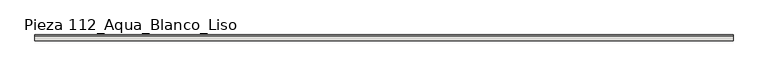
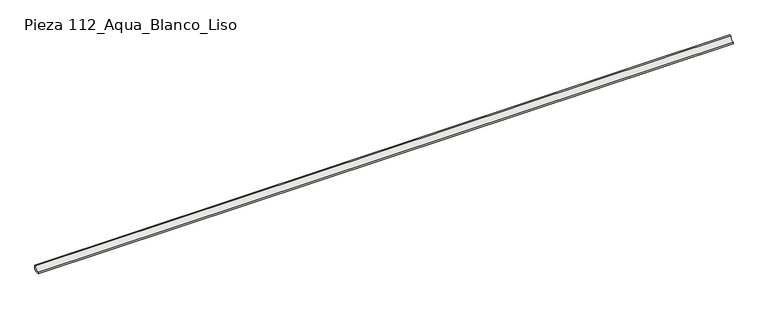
"""IFC4 building model written with IfcOpenShell, lengths in millimetres: slab geometry, ROSA GRES_112 : Pieza 112_Aqua_Blanco_Liso."""

from ifc_helpers import new_model, si_unit, point, frame, frame_2d, origin, place, context, project, spatial, polyline, circle_curve, trimmed, segment, composite_curve, outline, extrude, source, transform, mapped, element, save


def pieza_112_aqua_blanco_liso_6f53a8a9(model_context):
    return source(origin(), model_context, "Body", "SweptSolid", [
        extrude(outline(composite_curve([segment(polyline([(0.0, 8.7114978), (-8.7114978, 0.0), (-40.0, 0.0), (-40.0, 9.9734114)]), True, "CONTINUOUS"), segment(trimmed(circle_curve(frame_2d((-39.9955547, 39.9955547)), 30.0221435), [point((-40.0, 9.9734114))], [point((-9.9734114, 40.0))], True, "CARTESIAN"), True, "CONTINUOUS"), segment(polyline([(-9.9734114, 40.0), (0.0, 40.0), (0.0, 8.7114978)]), True, "CONTINUOUS")], self_intersect=False)), frame((0.0, 0.0, 0.0), z_axis=(1.0, 0.0, 0.0), x_axis=(0.0, 1.0, 0.0)), (0.0, 0.0, 1.0), 4810.0),
    ])


if __name__ == "__main__":
    model = new_model("IFC4")
    model_context = context("Model", 3, world=origin())
    ifc_project = project(units=[si_unit("LENGTHUNIT", "METRE", prefix="MILLI")], contexts=[model_context])
    site = spatial("IfcSite", under=ifc_project)
    building = spatial("IfcBuilding", under=site)
    placement = place(None, origin())
    pieza_112_aqua_blanco_liso_shape = pieza_112_aqua_blanco_liso_6f53a8a9(model_context)
    element("IfcSlab", 1, ObjectType="ROSA GRES_112 : Pieza 112_Aqua_Blanco_Liso", at=placement, inside=building, context=model_context, shape_type="MappedRepresentation", body=[
        mapped(pieza_112_aqua_blanco_liso_shape, transform((0.0, 0.0, 0.0), x_axis=(1.0, 0.0, 0.0), y_axis=(0.0, 1.0, 0.0), z_axis=(0.0, 0.0, 1.0))),
    ])
    save(model, "model.ifc")
